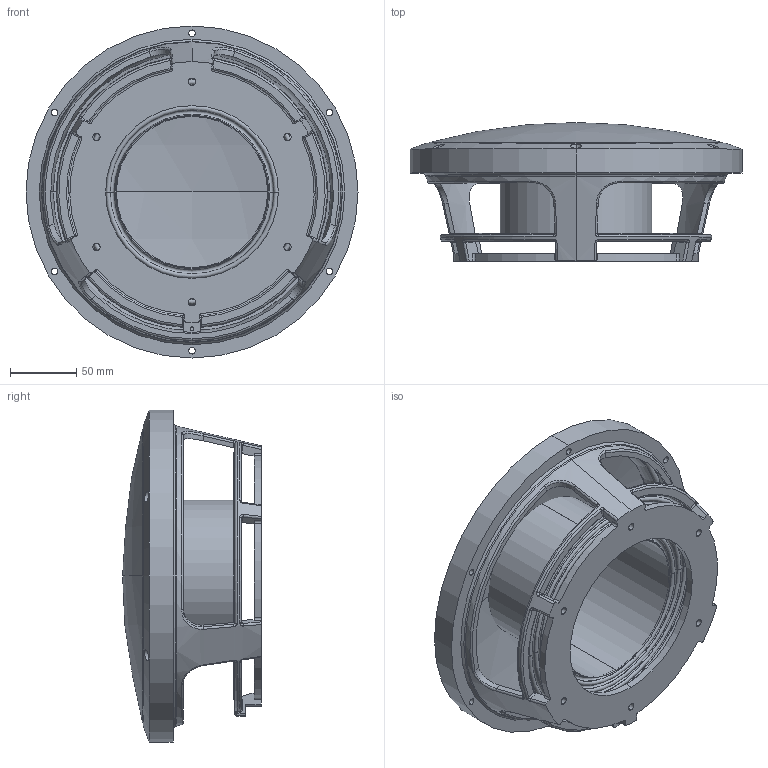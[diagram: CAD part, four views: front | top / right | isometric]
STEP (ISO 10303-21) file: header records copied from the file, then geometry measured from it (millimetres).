
FILE_DESCRIPTION (( 'STEP AP214' ), '1' );
FILE_NAME ('ASP-250.STEP', '2018-06-25T08:09:38', ( 'Thiel' ), ( '' ), 'SwSTEP 2.0', 'SolidWorks 2015', '' );
FILE_SCHEMA (( 'AUTOMOTIVE_DESIGN' ));
Length unit declared in the file: millimetre
Products named in the file (6): ZEN_Standard; ASP-250; ASM_Standard; KRB_Standard; VC_Standard; GUS_Standard
Assembly tree (5 placements, depth 2):
  ASP-250
    KRB_Standard
    ZEN_Standard
    ASM_Standard
    GUS_Standard
    VC_Standard
Bounding box: 250 x 104.41 x 250 mm (x, y, z)
Volume: 525272.8 mm3; surface area: 370442.2 mm2
Topology: 5 solids, 5 shells, 361 faces, 901 edges, 540 vertices
Faces by surface type: cylinder 124, torus 91, bspline 56, plane 51, cone 33, sphere 6
Entity records: 14472 total; most frequent: CARTESIAN_POINT 5736, DIRECTION 1834, ORIENTED_EDGE 1798, EDGE_CURVE 899, AXIS2_PLACEMENT_3D 800, VERTEX_POINT 540, CIRCLE 487, EDGE_LOOP 405
